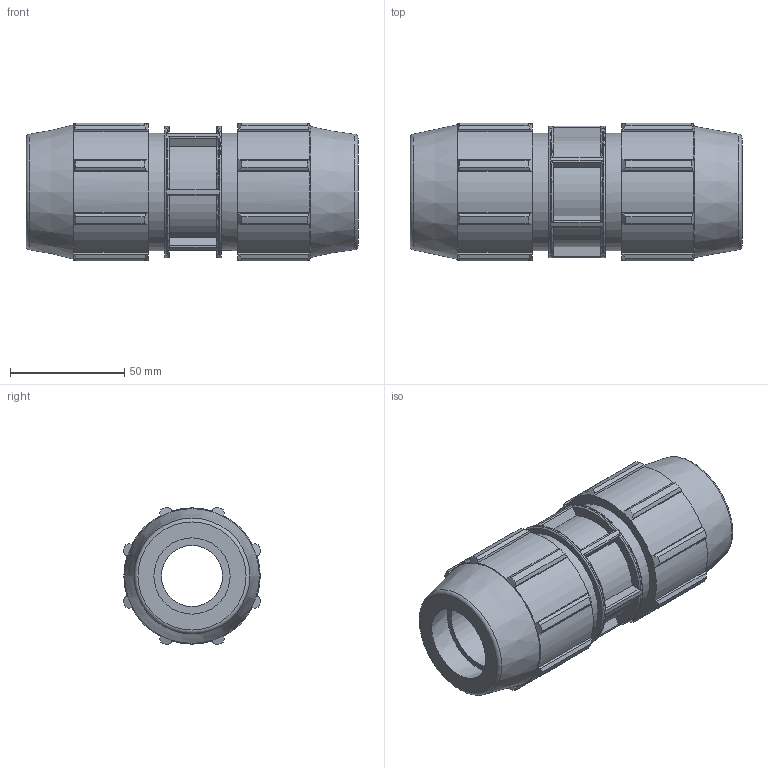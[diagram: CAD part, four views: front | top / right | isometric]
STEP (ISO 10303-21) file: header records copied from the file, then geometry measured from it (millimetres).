
FILE_DESCRIPTION(/* description */ ('PLASSON COUPLER 1'''' - 32mm'),/* implementation_level */ '2;1');
FILE_NAME(/* name */ 'C:\Dropbox\KIMPROJECTS-Inventor 2019\99-16-3568-Processing Inch\ASTM Compression 2021\0701M\0701M010.ipt.stp',/* time_stamp */ '2021-08-26T12:29:18+03:00',/* author */ ('KIM'),/* organization */ (''),/* preprocessor_version */ 'ST-DEVELOPER v17.2',/* originating_system */ 'Autodesk Inventor 2019',/* authorisation */ '');
FILE_SCHEMA (('AUTOMOTIVE_DESIGN { 1 0 10303 214 3 1 1 }'));
Length unit declared in the file: inch
Products named in the file (1): 0701M010
Bounding box: 145.03 x 60.23 x 60.23 mm (x, y, z)
Volume: 235843.7 mm3; surface area: 50475.1 mm2
Topology: 1 solids, 1 shells, 193 faces, 552 edges, 375 vertices
Faces by surface type: plane 98, cylinder 56, cone 23, torus 16
Full cylindrical faces by diameter (mm): 26.64 x1, 32 x1, 33.3 x1, 51.206 x2, 57.607 x1
Entity records: 6840 total; most frequent: CARTESIAN_POINT 1633, ORIENTED_EDGE 1104, DIRECTION 1003, EDGE_CURVE 552, VERTEX_POINT 375, AXIS2_PLACEMENT_3D 369, LINE 265, VECTOR 265
